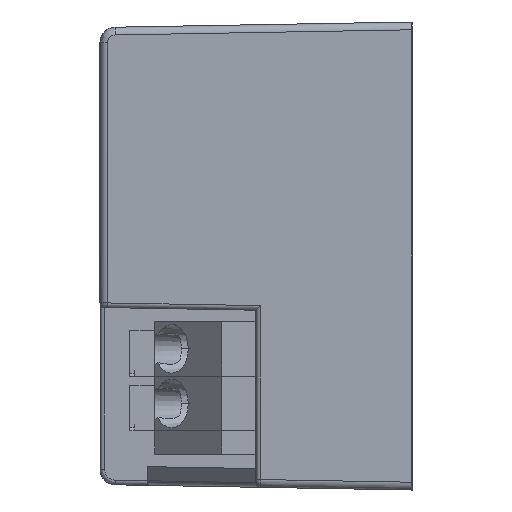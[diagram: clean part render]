
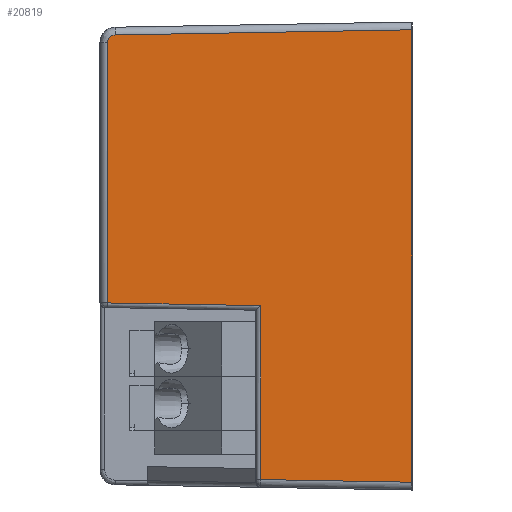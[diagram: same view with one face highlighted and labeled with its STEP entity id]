
A CAD part, left-side view. The second image highlights one B-rep face of the part: STEP entity #20819.
In plain terms, the highlighted planar face has unit normal (-1, 0.018, 0).
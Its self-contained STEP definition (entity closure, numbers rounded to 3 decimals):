
#174 = CARTESIAN_POINT ( 'NONE',  ( -40., -0.009, 14.5 ) ) ;
#2206 = EDGE_CURVE ( 'NONE', #16651, #49521, #34136, .T. ) ;
#2860 = CARTESIAN_POINT ( 'NONE',  ( -39.668, 19.017, 14.168 ) ) ;
#3179 = CARTESIAN_POINT ( 'NONE',  ( -40., 0., 15. ) ) ;
#4029 = LINE ( 'NONE', #174, #37239 ) ;
#6000 = CARTESIAN_POINT ( 'NONE',  ( -39.831, 9.705, -3.18 ) ) ;
#6766 = VECTOR ( 'NONE', #16435, 1000. ) ;
#7514 = VERTEX_POINT ( 'NONE', #2860 ) ;
#7546 = PLANE ( 'NONE',  #39003 ) ;
#7873 = CARTESIAN_POINT ( 'NONE',  ( -39.663, 19.306, 14.163 ) ) ;
#8506 = DIRECTION ( 'NONE',  ( 0., 0., -1. ) ) ;
#8594 = ORIENTED_EDGE ( 'NONE', *, *, #14653, .T. ) ;
#11189 = VECTOR ( 'NONE', #43435, 1000. ) ;
#11922 = DIRECTION ( 'NONE',  ( -0.017, -1., 0. ) ) ;
#12238 = CARTESIAN_POINT ( 'NONE',  ( -39.668, 19.017, 14.168 ) ) ;
#12887 = CARTESIAN_POINT ( 'NONE',  ( -39.659, 19.509, 15. ) ) ;
#14094 = EDGE_CURVE ( 'NONE', #23458, #16651, #18351, .T. ) ;
#14653 = EDGE_CURVE ( 'NONE', #32231, #18034, #16926, .T. ) ;
#16103 = DIRECTION ( 'NONE',  ( -1., 0.017, 0. ) ) ;
#16435 = DIRECTION ( 'NONE',  ( -0.017, -1., -0.017 ) ) ;
#16651 = VERTEX_POINT ( 'NONE', #35768 ) ;
#16926 = LINE ( 'NONE', #30701, #48717 ) ;
#18034 = VERTEX_POINT ( 'NONE', #6000 ) ;
#18351 = LINE ( 'NONE', #55237, #6766 ) ;
#19892 = ORIENTED_EDGE ( 'NONE', *, *, #28367, .T. ) ;
#20819 = ADVANCED_FACE ( 'NONE', ( #30343 ), #7546, .T. ) ;
#21983 = DIRECTION ( 'NONE',  ( -0.017, -1., -0.017 ) ) ;
#22446 = CARTESIAN_POINT ( 'NONE',  ( -39.659, 19.509, 13.668 ) ) ;
#22712 = EDGE_CURVE ( 'NONE', #7514, #34334, #29355, .T. ) ;
#23458 = VERTEX_POINT ( 'NONE', #52468 ) ;
#24796 = CARTESIAN_POINT ( 'NONE',  ( -39.659, 19.509, -3.009 ) ) ;
#25324 = CARTESIAN_POINT ( 'NONE',  ( -39.659, 19.509, 13.668 ) ) ;
#26018 = EDGE_CURVE ( 'NONE', #18034, #23458, #32856, .T. ) ;
#26335 = DIRECTION ( 'NONE',  ( 0.017, 1., -0.017 ) ) ;
#28016 = CARTESIAN_POINT ( 'NONE',  ( -40., 0., 14.5 ) ) ;
#28281 = EDGE_CURVE ( 'NONE', #34334, #32231, #42671, .T. ) ;
#28367 = EDGE_CURVE ( 'NONE', #49521, #7514, #4029, .T. ) ;
#28927 = ORIENTED_EDGE ( 'NONE', *, *, #26018, .T. ) ;
#29089 = ORIENTED_EDGE ( 'NONE', *, *, #14094, .T. ) ;
#29355 =( BOUNDED_CURVE ( )  B_SPLINE_CURVE ( 3, ( #12238, #7873, #51231, #25324 ),
 .UNSPECIFIED., .F., .F. ) 
 B_SPLINE_CURVE_WITH_KNOTS ( ( 4, 4 ),
 ( 1.588, 3.142 ),
 .UNSPECIFIED. ) 
 CURVE ( )  GEOMETRIC_REPRESENTATION_ITEM ( )  RATIONAL_B_SPLINE_CURVE ( ( 1., 0.809, 0.809, 1. ) ) 
 REPRESENTATION_ITEM ( '' )  );
#30343 = FACE_OUTER_BOUND ( 'NONE', #52244, .T. ) ;
#30701 = CARTESIAN_POINT ( 'NONE',  ( -39.994, 0.32, -3.344 ) ) ;
#32231 = VERTEX_POINT ( 'NONE', #24796 ) ;
#32856 = LINE ( 'NONE', #47764, #11189 ) ;
#34136 = LINE ( 'NONE', #44109, #55820 ) ;
#34334 = VERTEX_POINT ( 'NONE', #22446 ) ;
#35548 = ORIENTED_EDGE ( 'NONE', *, *, #2206, .T. ) ;
#35768 = CARTESIAN_POINT ( 'NONE',  ( -40., 0., -14.5 ) ) ;
#37239 = VECTOR ( 'NONE', #26335, 1000. ) ;
#39003 = AXIS2_PLACEMENT_3D ( 'NONE', #3179, #16103, #11922 ) ;
#39622 = ORIENTED_EDGE ( 'NONE', *, *, #22712, .T. ) ;
#42671 = LINE ( 'NONE', #12887, #52845 ) ;
#42858 = ORIENTED_EDGE ( 'NONE', *, *, #28281, .T. ) ;
#43435 = DIRECTION ( 'NONE',  ( 0., 0., -1. ) ) ;
#44109 = CARTESIAN_POINT ( 'NONE',  ( -40., 0., 15. ) ) ;
#47764 = CARTESIAN_POINT ( 'NONE',  ( -39.831, 9.705, 15. ) ) ;
#48717 = VECTOR ( 'NONE', #21983, 1000. ) ;
#49521 = VERTEX_POINT ( 'NONE', #28016 ) ;
#51231 = CARTESIAN_POINT ( 'NONE',  ( -39.659, 19.509, 13.957 ) ) ;
#52244 = EDGE_LOOP ( 'NONE', ( #8594, #28927, #29089, #35548, #19892, #39622, #42858 ) ) ;
#52468 = CARTESIAN_POINT ( 'NONE',  ( -39.831, 9.705, -14.331 ) ) ;
#52836 = DIRECTION ( 'NONE',  ( 0., 0., 1. ) ) ;
#52845 = VECTOR ( 'NONE', #8506, 1000. ) ;
#55237 = CARTESIAN_POINT ( 'NONE',  ( -39.991, 0.515, -14.491 ) ) ;
#55820 = VECTOR ( 'NONE', #52836, 1000. ) ;
